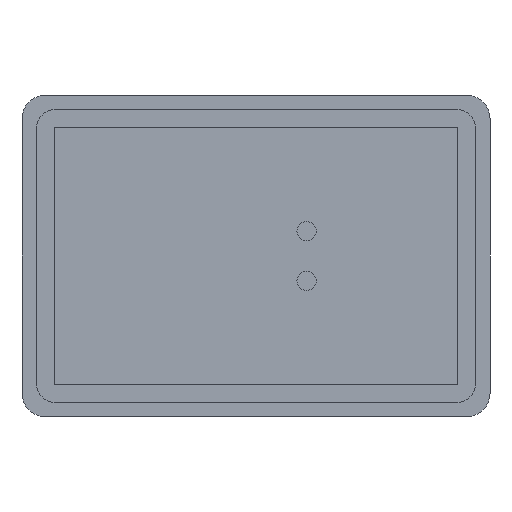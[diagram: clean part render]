
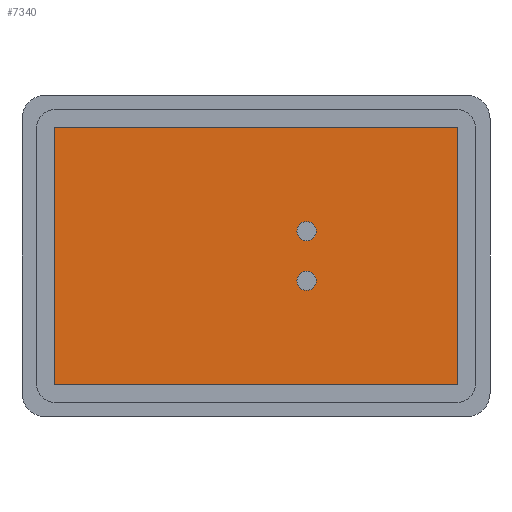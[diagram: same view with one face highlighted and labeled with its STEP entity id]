
A CAD part, front view. The second image highlights one B-rep face of the part: STEP entity #7340.
In plain terms, the highlighted planar face has unit normal (0, -1, 0).
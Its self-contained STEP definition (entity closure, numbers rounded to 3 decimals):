
#48 = ORIENTED_EDGE ( 'NONE', *, *, #3943, .T. ) ;
#127 = EDGE_CURVE ( 'NONE', #6873, #3541, #3241, .T. ) ;
#170 = CARTESIAN_POINT ( 'NONE',  ( 17.25, -4., -8.5 ) ) ;
#188 = CARTESIAN_POINT ( 'NONE',  ( 68.93, -4., -43.637 ) ) ;
#206 = EDGE_CURVE ( 'NONE', #2199, #6873, #2818, .T. ) ;
#212 = CARTESIAN_POINT ( 'NONE',  ( 68.58, -4., -43.987 ) ) ;
#218 = VERTEX_POINT ( 'NONE', #513 ) ;
#386 = DIRECTION ( 'NONE',  ( 1., 0., 0. ) ) ;
#414 = EDGE_CURVE ( 'NONE', #2220, #1669, #4091, .T. ) ;
#431 = EDGE_CURVE ( 'NONE', #218, #2861, #2031, .T. ) ;
#447 = VERTEX_POINT ( 'NONE', #849 ) ;
#513 = CARTESIAN_POINT ( 'NONE',  ( 17.25, -4., -5.198 ) ) ;
#697 = DIRECTION ( 'NONE',  ( 0., 0., -1. ) ) ;
#711 = EDGE_CURVE ( 'NONE', #2861, #218, #2039, .T. ) ;
#775 = AXIS2_PLACEMENT_3D ( 'NONE', #1738, #5100, #3443 ) ;
#837 = VERTEX_POINT ( 'NONE', #5384 ) ;
#849 = CARTESIAN_POINT ( 'NONE',  ( -68.93, -4., 43.637 ) ) ;
#1228 = CARTESIAN_POINT ( 'NONE',  ( -68.58, -4., 43.637 ) ) ;
#1256 = CIRCLE ( 'NONE', #775, 0.35 ) ;
#1265 = DIRECTION ( 'NONE',  ( 0., -1., 0. ) ) ;
#1435 = ORIENTED_EDGE ( 'NONE', *, *, #1951, .T. ) ;
#1489 = CARTESIAN_POINT ( 'NONE',  ( 0., -4., 0. ) ) ;
#1492 = ORIENTED_EDGE ( 'NONE', *, *, #3079, .T. ) ;
#1512 = ORIENTED_EDGE ( 'NONE', *, *, #711, .F. ) ;
#1669 = VERTEX_POINT ( 'NONE', #5355 ) ;
#1738 = CARTESIAN_POINT ( 'NONE',  ( 68.58, -4., 43.637 ) ) ;
#1937 = VERTEX_POINT ( 'NONE', #6897 ) ;
#1951 = EDGE_CURVE ( 'NONE', #447, #3388, #6399, .T. ) ;
#2031 = CIRCLE ( 'NONE', #7467, 3.302 ) ;
#2039 = CIRCLE ( 'NONE', #3374, 3.302 ) ;
#2199 = VERTEX_POINT ( 'NONE', #4509 ) ;
#2211 = CARTESIAN_POINT ( 'NONE',  ( -68.58, -4., -43.637 ) ) ;
#2220 = VERTEX_POINT ( 'NONE', #4437 ) ;
#2381 = ORIENTED_EDGE ( 'NONE', *, *, #2752, .T. ) ;
#2410 = ORIENTED_EDGE ( 'NONE', *, *, #431, .F. ) ;
#2513 = CARTESIAN_POINT ( 'NONE',  ( 68.58, -4., -43.637 ) ) ;
#2581 = VERTEX_POINT ( 'NONE', #7293 ) ;
#2664 = CARTESIAN_POINT ( 'NONE',  ( 68.58, -4., 43.987 ) ) ;
#2670 = ORIENTED_EDGE ( 'NONE', *, *, #2737, .F. ) ;
#2737 = EDGE_CURVE ( 'NONE', #1669, #2220, #4765, .T. ) ;
#2752 = EDGE_CURVE ( 'NONE', #837, #1937, #1256, .T. ) ;
#2790 = DIRECTION ( 'NONE',  ( 0., -1., 0. ) ) ;
#2818 = LINE ( 'NONE', #6254, #3850 ) ;
#2836 = DIRECTION ( 'NONE',  ( 0., 1., 0. ) ) ;
#2861 = VERTEX_POINT ( 'NONE', #3591 ) ;
#2898 = DIRECTION ( 'NONE',  ( 0., 0., 1. ) ) ;
#2941 = LINE ( 'NONE', #5286, #6218 ) ;
#2966 = DIRECTION ( 'NONE',  ( 0., 0., -1. ) ) ;
#3048 = DIRECTION ( 'NONE',  ( 0., -1., 0. ) ) ;
#3079 = EDGE_CURVE ( 'NONE', #1937, #2581, #6117, .T. ) ;
#3161 = DIRECTION ( 'NONE',  ( 0., 0., 1. ) ) ;
#3241 = CIRCLE ( 'NONE', #4208, 0.35 ) ;
#3340 = ORIENTED_EDGE ( 'NONE', *, *, #5433, .T. ) ;
#3374 = AXIS2_PLACEMENT_3D ( 'NONE', #5796, #1265, #2966 ) ;
#3388 = VERTEX_POINT ( 'NONE', #4768 ) ;
#3443 = DIRECTION ( 'NONE',  ( 0., 0., 1. ) ) ;
#3447 = EDGE_LOOP ( 'NONE', ( #1512, #2410 ) ) ;
#3541 = VERTEX_POINT ( 'NONE', #188 ) ;
#3591 = CARTESIAN_POINT ( 'NONE',  ( 17.25, -4., -11.802 ) ) ;
#3722 = CARTESIAN_POINT ( 'NONE',  ( 17.25, -4., 8.5 ) ) ;
#3829 = ORIENTED_EDGE ( 'NONE', *, *, #414, .F. ) ;
#3850 = VECTOR ( 'NONE', #4448, 1000. ) ;
#3890 = AXIS2_PLACEMENT_3D ( 'NONE', #1228, #6943, #4596 ) ;
#3897 = CIRCLE ( 'NONE', #3890, 0.35 ) ;
#3943 = EDGE_CURVE ( 'NONE', #3541, #837, #2941, .T. ) ;
#3970 = FACE_BOUND ( 'NONE', #3447, .T. ) ;
#4002 = DIRECTION ( 'NONE',  ( 0., 0., -1. ) ) ;
#4016 = AXIS2_PLACEMENT_3D ( 'NONE', #1489, #2836, #386 ) ;
#4024 = CARTESIAN_POINT ( 'NONE',  ( -68.93, -4., 43.637 ) ) ;
#4091 = CIRCLE ( 'NONE', #6493, 3.302 ) ;
#4187 = DIRECTION ( 'NONE',  ( 0., -1., 0. ) ) ;
#4208 = AXIS2_PLACEMENT_3D ( 'NONE', #2513, #3048, #3161 ) ;
#4293 = DIRECTION ( 'NONE',  ( 0., -1., 0. ) ) ;
#4325 = EDGE_LOOP ( 'NONE', ( #3340, #6847, #5747, #48, #2381, #1492, #5427, #1435 ) ) ;
#4437 = CARTESIAN_POINT ( 'NONE',  ( 17.25, -4., 5.198 ) ) ;
#4448 = DIRECTION ( 'NONE',  ( 1., 0., 0. ) ) ;
#4509 = CARTESIAN_POINT ( 'NONE',  ( -68.58, -4., -43.987 ) ) ;
#4596 = DIRECTION ( 'NONE',  ( 0., 0., 1. ) ) ;
#4765 = CIRCLE ( 'NONE', #5725, 3.302 ) ;
#4768 = CARTESIAN_POINT ( 'NONE',  ( -68.93, -4., -43.637 ) ) ;
#5079 = VECTOR ( 'NONE', #697, 1000. ) ;
#5100 = DIRECTION ( 'NONE',  ( 0., -1., 0. ) ) ;
#5128 = VECTOR ( 'NONE', #5583, 1000. ) ;
#5286 = CARTESIAN_POINT ( 'NONE',  ( 68.93, -4., -43.637 ) ) ;
#5355 = CARTESIAN_POINT ( 'NONE',  ( 17.25, -4., 11.802 ) ) ;
#5384 = CARTESIAN_POINT ( 'NONE',  ( 68.93, -4., 43.637 ) ) ;
#5427 = ORIENTED_EDGE ( 'NONE', *, *, #5605, .T. ) ;
#5433 = EDGE_CURVE ( 'NONE', #3388, #2199, #7145, .T. ) ;
#5583 = DIRECTION ( 'NONE',  ( -1., 0., 0. ) ) ;
#5605 = EDGE_CURVE ( 'NONE', #2581, #447, #3897, .T. ) ;
#5725 = AXIS2_PLACEMENT_3D ( 'NONE', #6838, #2790, #4002 ) ;
#5747 = ORIENTED_EDGE ( 'NONE', *, *, #127, .T. ) ;
#5796 = CARTESIAN_POINT ( 'NONE',  ( 17.25, -4., -8.5 ) ) ;
#5949 = DIRECTION ( 'NONE',  ( 0., 0., -1. ) ) ;
#6112 = DIRECTION ( 'NONE',  ( 0., -1., 0. ) ) ;
#6117 = LINE ( 'NONE', #2664, #5128 ) ;
#6218 = VECTOR ( 'NONE', #2898, 1000. ) ;
#6254 = CARTESIAN_POINT ( 'NONE',  ( -68.58, -4., -43.987 ) ) ;
#6268 = FACE_OUTER_BOUND ( 'NONE', #4325, .T. ) ;
#6399 = LINE ( 'NONE', #4024, #5079 ) ;
#6493 = AXIS2_PLACEMENT_3D ( 'NONE', #3722, #4187, #5949 ) ;
#6588 = DIRECTION ( 'NONE',  ( 0., 0., -1. ) ) ;
#6838 = CARTESIAN_POINT ( 'NONE',  ( 17.25, -4., 8.5 ) ) ;
#6847 = ORIENTED_EDGE ( 'NONE', *, *, #206, .T. ) ;
#6873 = VERTEX_POINT ( 'NONE', #212 ) ;
#6897 = CARTESIAN_POINT ( 'NONE',  ( 68.58, -4., 43.987 ) ) ;
#6943 = DIRECTION ( 'NONE',  ( 0., -1., 0. ) ) ;
#7025 = AXIS2_PLACEMENT_3D ( 'NONE', #2211, #6112, #7353 ) ;
#7145 = CIRCLE ( 'NONE', #7025, 0.35 ) ;
#7293 = CARTESIAN_POINT ( 'NONE',  ( -68.58, -4., 43.987 ) ) ;
#7307 = PLANE ( 'NONE',  #4016 ) ;
#7340 = ADVANCED_FACE ( 'NONE', ( #3970, #7447, #6268 ), #7307, .F. ) ;
#7353 = DIRECTION ( 'NONE',  ( 0., 0., 1. ) ) ;
#7447 = FACE_BOUND ( 'NONE', #7471, .T. ) ;
#7467 = AXIS2_PLACEMENT_3D ( 'NONE', #170, #4293, #6588 ) ;
#7471 = EDGE_LOOP ( 'NONE', ( #3829, #2670 ) ) ;
